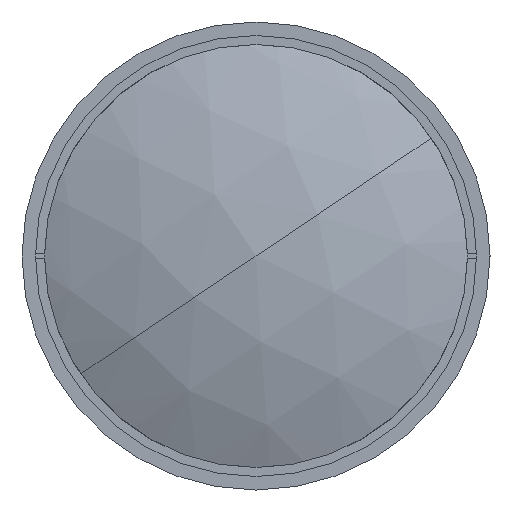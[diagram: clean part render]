
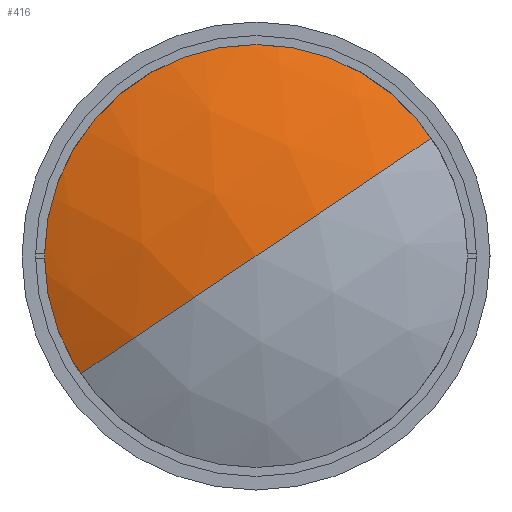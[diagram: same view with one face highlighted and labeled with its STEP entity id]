
A CAD part, left-side view. The second image highlights one B-rep face of the part: STEP entity #416.
In plain terms, the highlighted spherical face has radius 114.92 mm.
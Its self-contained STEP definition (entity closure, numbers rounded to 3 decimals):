
#416 = ADVANCED_FACE ( 'NONE', ( #4221 ), #4036, .T. ) ;
#1277 = ORIENTED_EDGE ( 'NONE', *, *, #12432, .T. ) ;
#1388 = CIRCLE ( 'NONE', #4670, 114.92 ) ;
#2099 = CARTESIAN_POINT ( 'NONE',  ( 2., 0., 0. ) ) ;
#2419 = CARTESIAN_POINT ( 'NONE',  ( 116.92, 0., 0. ) ) ;
#2939 = CARTESIAN_POINT ( 'NONE',  ( 12.504, 0., 0. ) ) ;
#3508 = ORIENTED_EDGE ( 'NONE', *, *, #9824, .F. ) ;
#3643 = DIRECTION ( 'NONE',  ( 0., -0.83, 0.558 ) ) ;
#3664 = DIRECTION ( 'NONE',  ( 0., -0.558, -0.83 ) ) ;
#3768 = AXIS2_PLACEMENT_3D ( 'NONE', #14054, #13606, #12366 ) ;
#4036 = SPHERICAL_SURFACE ( 'NONE', #3768, 114.92 ) ;
#4168 = DIRECTION ( 'NONE',  ( 0., 0.558, 0.83 ) ) ;
#4221 = FACE_OUTER_BOUND ( 'NONE', #14926, .T. ) ;
#4670 = AXIS2_PLACEMENT_3D ( 'NONE', #2419, #10984, #3643 ) ;
#5005 = CARTESIAN_POINT ( 'NONE',  ( 12.504, 39.828, -26.79 ) ) ;
#6327 = VERTEX_POINT ( 'NONE', #5005 ) ;
#9181 = ORIENTED_EDGE ( 'NONE', *, *, #10339, .T. ) ;
#9824 = EDGE_CURVE ( 'NONE', #14707, #13653, #10006, .T. ) ;
#10006 = CIRCLE ( 'NONE', #13786, 114.92 ) ;
#10179 = CARTESIAN_POINT ( 'NONE',  ( 12.504, -39.828, 26.79 ) ) ;
#10339 = EDGE_CURVE ( 'NONE', #14707, #6327, #10574, .T. ) ;
#10574 = CIRCLE ( 'NONE', #15005, 48. ) ;
#10984 = DIRECTION ( 'NONE',  ( 0., 0.558, 0.83 ) ) ;
#11003 = CARTESIAN_POINT ( 'NONE',  ( 116.92, 0., 0. ) ) ;
#11493 = DIRECTION ( 'NONE',  ( -1., 0., 0. ) ) ;
#12187 = DIRECTION ( 'NONE',  ( 0., 0.83, -0.558 ) ) ;
#12366 = DIRECTION ( 'NONE',  ( 0., -0.83, 0.558 ) ) ;
#12432 = EDGE_CURVE ( 'NONE', #6327, #13653, #1388, .T. ) ;
#13606 = DIRECTION ( 'NONE',  ( 0., 0.558, 0.83 ) ) ;
#13653 = VERTEX_POINT ( 'NONE', #2099 ) ;
#13786 = AXIS2_PLACEMENT_3D ( 'NONE', #11003, #3664, #12187 ) ;
#14054 = CARTESIAN_POINT ( 'NONE',  ( 116.92, 0., 0. ) ) ;
#14707 = VERTEX_POINT ( 'NONE', #10179 ) ;
#14926 = EDGE_LOOP ( 'NONE', ( #9181, #1277, #3508 ) ) ;
#15005 = AXIS2_PLACEMENT_3D ( 'NONE', #2939, #11493, #4168 ) ;
